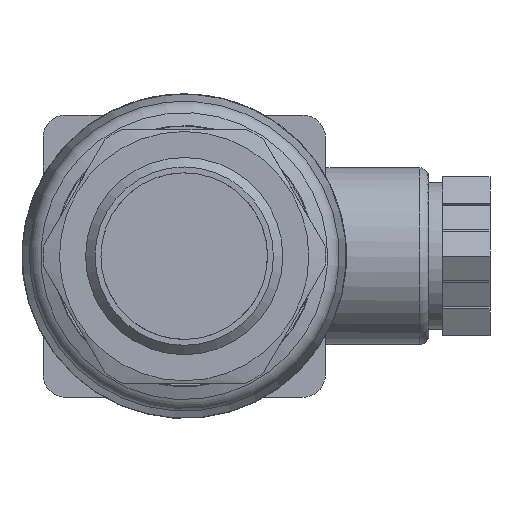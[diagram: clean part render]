
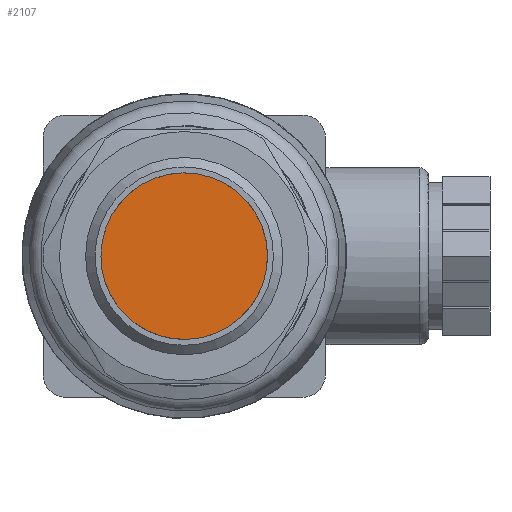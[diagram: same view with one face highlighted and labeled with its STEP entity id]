
A CAD part, left-side view. The second image highlights one B-rep face of the part: STEP entity #2107.
In plain terms, the highlighted planar face has unit normal (-1, 0, 0).
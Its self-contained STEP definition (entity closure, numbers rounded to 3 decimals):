
#253=FACE_OUTER_BOUND('',#421,.T.);
#421=EDGE_LOOP('',(#1718));
#534=CIRCLE('',#2321,8.85);
#999=VERTEX_POINT('',#3452);
#1247=EDGE_CURVE('',#999,#999,#534,.T.);
#1718=ORIENTED_EDGE('',*,*,#1247,.T.);
#1867=PLANE('',#2320);
#2107=ADVANCED_FACE('',(#253),#1867,.T.);
#2320=AXIS2_PLACEMENT_3D('',#3451,#2866,#2867);
#2321=AXIS2_PLACEMENT_3D('',#3453,#2868,#2869);
#2866=DIRECTION('center_axis',(-1.,0.,0.));
#2867=DIRECTION('ref_axis',(0.,0.889,0.458));
#2868=DIRECTION('center_axis',(-1.,0.,0.));
#2869=DIRECTION('ref_axis',(0.,0.458,-0.889));
#3451=CARTESIAN_POINT('Origin',(-61.83,3.921,-7.615));
#3452=CARTESIAN_POINT('',(-61.83,4.052,-7.868));
#3453=CARTESIAN_POINT('Origin',(-61.83,0.,
0.));
